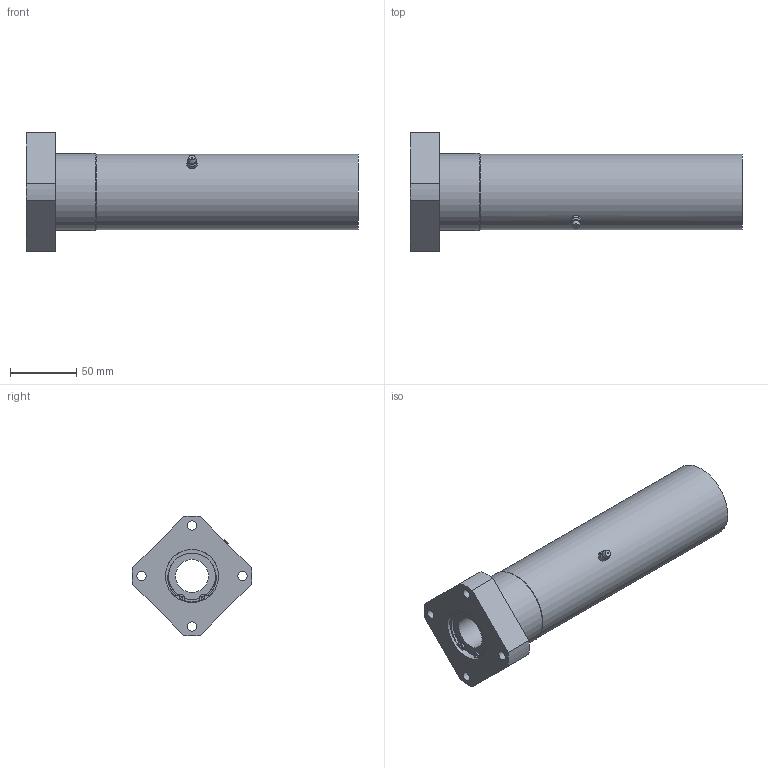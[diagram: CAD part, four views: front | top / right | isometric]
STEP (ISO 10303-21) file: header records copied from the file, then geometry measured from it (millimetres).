
FILE_DESCRIPTION((''),'2;1');
FILE_NAME('D:\製品 (図面)\カタログ用3D\リニアベアリング関連(改)\STEP形式\LFWL\LFWL25B.stp','2010-01-22T16:34:33',('Tsuchiya'),(''),'Autodesk Inventor 10','Autodesk Inventor 10','');
FILE_SCHEMA(('AUTOMOTIVE_DESIGN { 1 0 10303 214 1 1 1 1 }'));
Length unit declared in the file: millimetre
Products named in the file (1): LFWL25B
Bounding box: 250 x 89.9 x 89.9 mm (x, y, z)
Volume: 562588.9 mm3; surface area: 84286.1 mm2
Topology: 1 solids, 7 shells, 114 faces, 286 edges, 177 vertices
Faces by surface type: bspline 36, plane 35, cylinder 31, cone 8, sphere 2, torus 2
Full cylindrical faces by diameter (mm): 2.5 x2, 7 x4, 25 x2, 35.3 x2, 38 x2, 40 x8, 57 x1, 58 x1
Entity records: 3503 total; most frequent: CARTESIAN_POINT 999, DIRECTION 534, ORIENTED_EDGE 452, AXIS2_PLACEMENT_3D 241, EDGE_CURVE 226, EDGE_LOOP 188, VERTEX_POINT 158, CIRCLE 158
